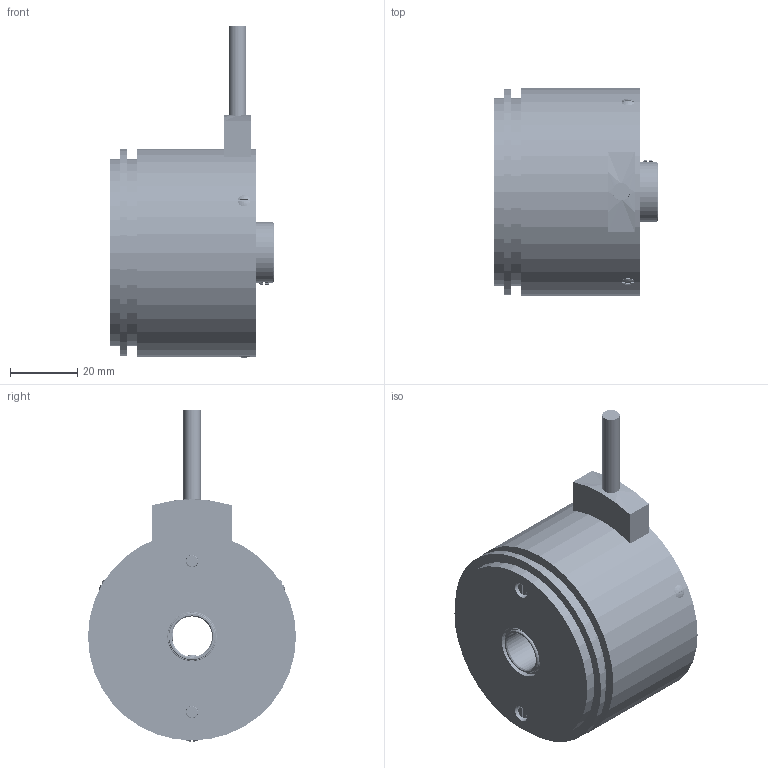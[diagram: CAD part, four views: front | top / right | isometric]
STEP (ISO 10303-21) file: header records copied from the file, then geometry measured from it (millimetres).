
FILE_DESCRIPTION (( 'STEP AP214' ), '1' );
FILE_NAME ('ËÈÐ-362_èñï 3.STEP', '2017-05-23T08:49:28', ( '' ), ( '' ), 'SwSTEP 2.0', 'SolidWorks 2013', '' );
FILE_SCHEMA (( 'AUTOMOTIVE_DESIGN' ));
Length unit declared in the file: millimetre
Products named in the file (1): ËÈÐ-362_èñï 3
Bounding box: 49 x 62 x 98.94 mm (x, y, z)
Volume: 63374.8 mm3; surface area: 75910.5 mm2
Topology: 42 solids, 42 shells, 2880 faces, 7910 edges, 5075 vertices
Faces by surface type: cone 1273, cylinder 877, sphere 284, plane 266, torus 162, bspline 18
Entity records: 141344 total; most frequent: CARTESIAN_POINT 34777, DIRECTION 16428, ORIENTED_EDGE 15788, EDGE_CURVE 7894, AXIS2_PLACEMENT_3D 7049, VERTEX_POINT 5075, CIRCLE 4186, EDGE_LOOP 3099
